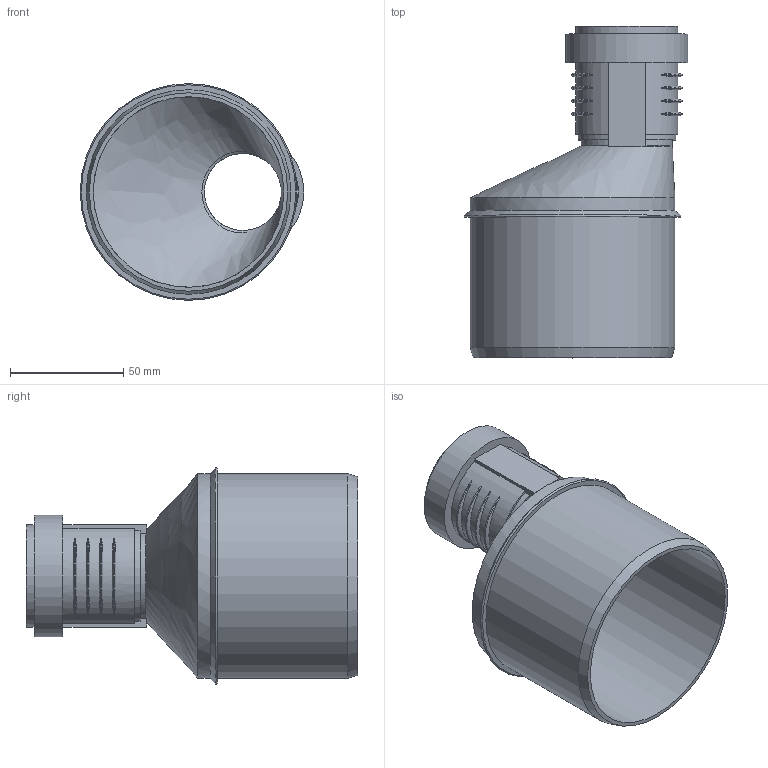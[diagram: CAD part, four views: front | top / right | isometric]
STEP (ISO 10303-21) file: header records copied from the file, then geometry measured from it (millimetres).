
FILE_DESCRIPTION(/* description */ (''),/* implementation_level */ '2;1');
FILE_NAME(/* name */ 'Z:\Geberit\Export\NewStep\390471.stp',/* time_stamp */ '2014-04-02T08:13:34+02:00',/* author */ ('ML'),/* organization */ (''),/* preprocessor_version */ 'ST-DEVELOPER v15.2',/* originating_system */ 'Autodesk Inventor 2014',/* authorisation */ '');
FILE_SCHEMA (('AUTOMOTIVE_DESIGN { 1 0 10303 214 3 1 1 }'));
Length unit declared in the file: millimetre
Products named in the file (3): 861304; 861400; 390471
Bounding box: 98.54 x 146.19 x 95.52 mm (x, y, z)
Volume: 94509.7 mm3; surface area: 74575.5 mm2
Topology: 2 solids, 2 shells, 68 faces, 162 edges, 112 vertices
Faces by surface type: torus 25, plane 20, cylinder 18, cone 3, bspline 2
Full cylindrical faces by diameter (mm): 33.95 x1, 36.15 x1, 40.15 x2, 41 x2, 45 x1, 49.7 x1, 53.7 x1, 84 x1, 90.2 x2
Entity records: 2598 total; most frequent: CARTESIAN_POINT 989, DIRECTION 296, ORIENTED_EDGE 290, EDGE_CURVE 145, AXIS2_PLACEMENT_3D 130, VERTEX_POINT 111, EDGE_LOOP 102, STYLED_ITEM 68
